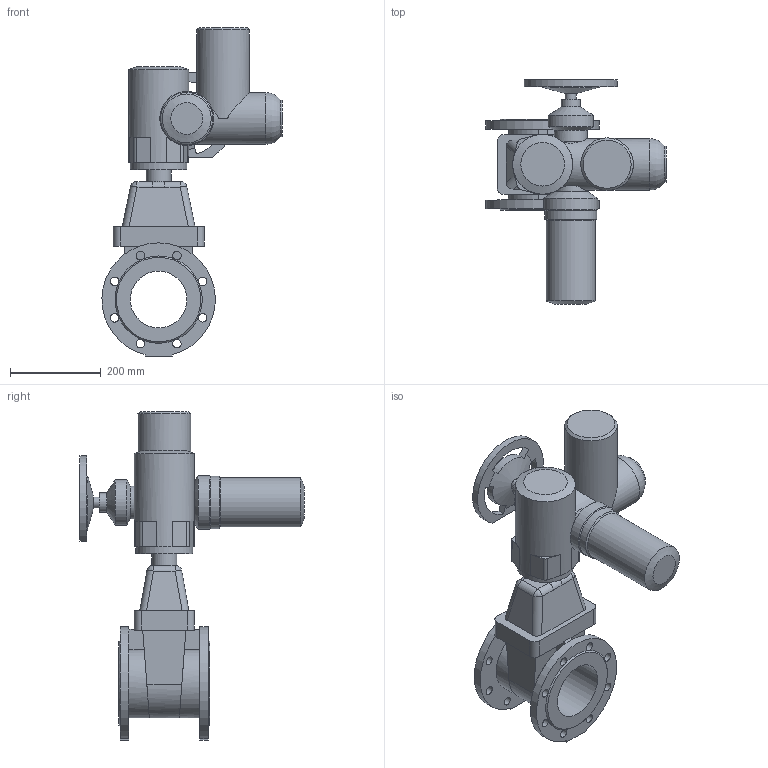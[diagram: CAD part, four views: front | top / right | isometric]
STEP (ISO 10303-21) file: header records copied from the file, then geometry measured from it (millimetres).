
FILE_DESCRIPTION(('STEP AP203'), '1');
FILE_NAME('青溻桄赅 47GVA DN125 PN10_PN16+MT903.A10', '', ('UNSPECIFIED'), ('UNSPECIFIED'), 'ASCON STEP Converter 1.6', 'ASCON Math Kernel', '');
FILE_SCHEMA(('CONFIG_CONTROL_DESIGN'));
Length unit declared in the file: millimetre
Bounding box: 396.92 x 494 x 724 mm (x, y, z)
Volume: 15580994 mm3; surface area: 926410.3 mm2
Topology: 2 solids, 2 shells, 205 faces, 565 edges, 361 vertices
Faces by surface type: plane 100, cylinder 86, cone 11, bspline 7, torus 1
Full cylindrical faces by diameter (mm): 8.5 x4, 12 x4, 19 x16, 24 x2, 42 x1, 55 x1, 66 x1, 70 x2, 72 x1, 80 x1, 100 x1, 108 x1, 114 x1, 115 x1, 116 x1, 119 x1, 125 x2, 132 x1
Entity records: 10583 total; most frequent: CARTESIAN_POINT 3783, DIRECTION 1063, ORIENTED_EDGE 1012, EDGE_CURVE 506, AXIS2_PLACEMENT_3D 414, VERTEX_POINT 361, EDGE_LOOP 311, LINE 235
